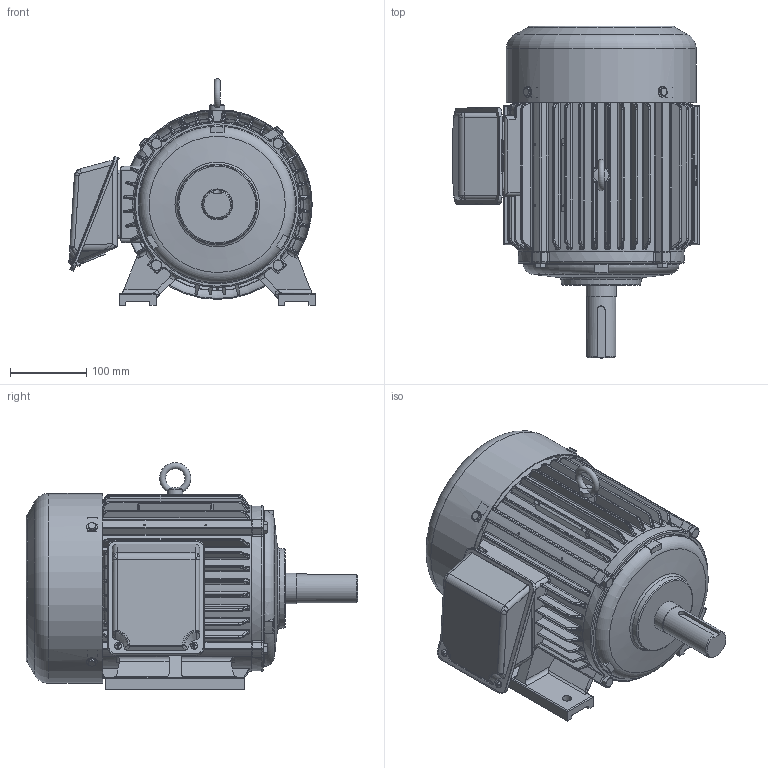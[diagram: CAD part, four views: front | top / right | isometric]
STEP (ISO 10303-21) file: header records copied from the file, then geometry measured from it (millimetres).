
FILE_DESCRIPTION(/* description */ ('Unknown'),/* implementation_level */ '2;1');
FILE_NAME(/* name */ '1-SMA-31982_외형도(205DIA)',/* time_stamp */ '2026-07-24T08:17:16+09:00',/* author */ ('Unknown'),/* organization */ ('Unknown'),/* preprocessor_version */ 'ST-DEVELOPER v16',/* originating_system */ 'DEX',/* authorisation */ $);
FILE_SCHEMA (('AUTOMOTIVE_DESIGN {1 0 10303 214 3 1 1}'));
Length unit declared in the file: millimetre
Products named in the file (19): 1-SMA-31982_寇屈档(205DI; 2-SMA-30798_FRAME(205DIA); 3-SMA-30799_¾Õºê¶óÄÏ(205Dö; 4-SMA-30800_菴粽塭鰍(205D; 5-SMA-30801_SHAFT(205DIA); 6-SMA-31244_FAN(205DIA); 7-SMA-30803_FAN COVER(205DIA); I獐お M10x1.5x18COVER(205DIA); 幫陝獐お M8x1.25x; À°°¢ M6x1x10“á?; 5.5~15kW(7.5~20HPO)_攪嘐割 夢蝶(205~260; 8-SMA-33050_T-BOX(鼻)(205~260DIA); 9-SMA-33051_T-BOX(ж)(205~260DIA); 褊濠 菅斬 該葬 獐お M5x; T-BOX 歜衛 馨檜綰斜楠萄(205~; T-BOX ｾﾐﾆﾇ(205~260DIA) V; 蹴辨 S2nceRefs; 6306ZZ; 6308ZZ
Assembly tree (29 placements, depth 3):
  1-SMA-31982_寇屈档(205DI
    2-SMA-30798_FRAME(205DIA)
    3-SMA-30799_¾Õºê¶óÄÏ(205Dö
    4-SMA-30800_菴粽塭鰍(205D
    5-SMA-30801_SHAFT(205DIA)
    6-SMA-31244_FAN(205DIA)
    7-SMA-30803_FAN COVER(205DIA)
    I獐お M10x1.5x18COVER(205DIA)
    幫陝獐お M8x1.25x  x8
    À°°¢ M6x1x10“á?  x4
    5.5~15kW(7.5~20HPO)_攪嘐割 夢蝶(205~260
      8-SMA-33050_T-BOX(鼻)(205~260DIA)
      9-SMA-33051_T-BOX(ж)(205~260DIA)
      褊濠 菅斬 該葬 獐お M5x  x2
      T-BOX 歜衛 馨檜綰斜楠萄(205~
    T-BOX ｾﾐﾆﾇ(205~260DIA) V
    蹴辨 S2nceRefs
    6306ZZ
    6308ZZ
Bounding box: 321.99 x 434 x 296.5 mm (x, y, z)
Volume: 3427350.5 mm3; surface area: 1320674.1 mm2
Topology: 50 solids, 50 shells, 2462 faces, 6199 edges, 3828 vertices
Faces by surface type: cylinder 731, plane 636, bspline 420, cone 357, torus 274, sphere 44
Full cylindrical faces by diameter (mm): 2 x2, 2.2 x4, 4.134 x2, 4.917 x6, 5 x2, 6 x6, 6.6 x4, 6.647 x16, 7 x2, 8 x16, 8.376 x1, 9 x2, 10 x10, 12 x4, 14 x4, 20 x1, 25 x1, 25.3 x1, 29.8 x1, 30 x2, 30.6 x1, 35 x2, 38 x1, 39.8 x1, 40 x4, 40.1 x1, 40.6 x1, 42 x2, 42.4 x2, 44 x3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
Entity records: 102590 total; most frequent: CARTESIAN_POINT 43360, ORIENTED_EDGE 10810, DIRECTION 9590, EDGE_CURVE 5405, AXIS2_PLACEMENT_3D 3996, VERTEX_POINT 3467, FACE_BOUND 2624, EDGE_LOOP 2599
